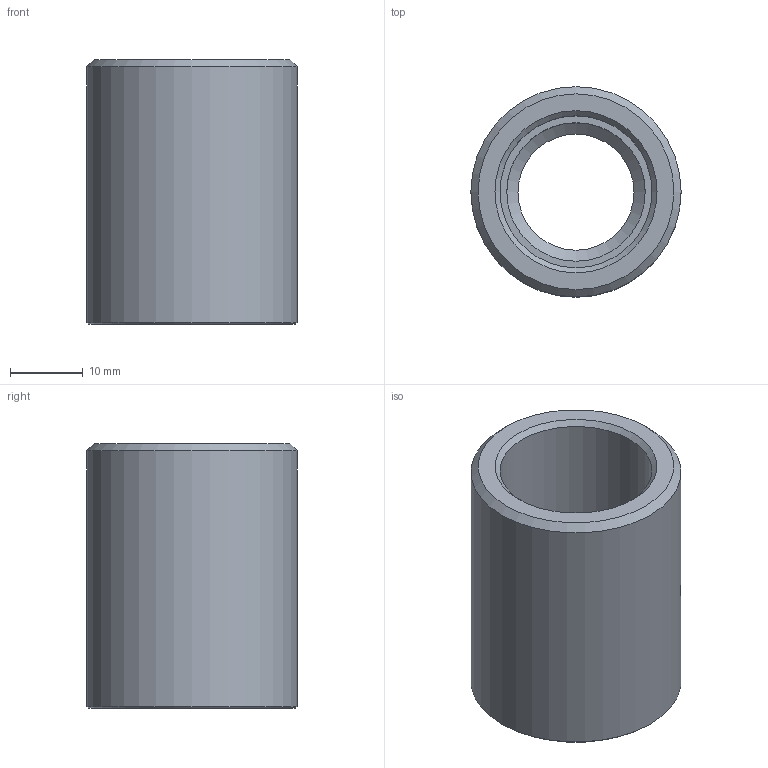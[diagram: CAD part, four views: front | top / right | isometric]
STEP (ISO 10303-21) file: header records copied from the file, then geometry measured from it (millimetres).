
FILE_DESCRIPTION( ( 'Unknown' ), '1' );
FILE_NAME( 'F:/U_Proces/Dokumentation/7000 3D Step filer/7000-/7000130/PM022.1.stp', 'Unknown', ( 'Unknown' ), ( 'Unknown' ), 'PSStep 13.0', 'Unknown', ' ' );
FILE_SCHEMA( ( 'AUTOMOTIVE_DESIGN { 1 0 10303 214 1 1 1 1 }' ) );
Length unit declared in the file: millimetre
Products named in the file (1): 1
Bounding box: 29 x 29 x 36.5 mm (x, y, z)
Volume: 12188.3 mm3; surface area: 6346.3 mm2
Topology: 1 solids, 1 shells, 14 faces, 27 edges, 17 vertices
Faces by surface type: cone 5, plane 4, cylinder 4, torus 1
Full cylindrical faces by diameter (mm): 19.1 x1, 20.96 x1, 26 x1, 29 x1
Entity records: 416 total; most frequent: DIRECTION 58, CARTESIAN_POINT 43, AXIS2_PLACEMENT_3D 29, EDGE_LOOP 28, ORIENTED_EDGE 28, FACE_OUTER_BOUND 19, STYLED_ITEM 14, PRESENTATION_STYLE_ASSIGNMENT 14
